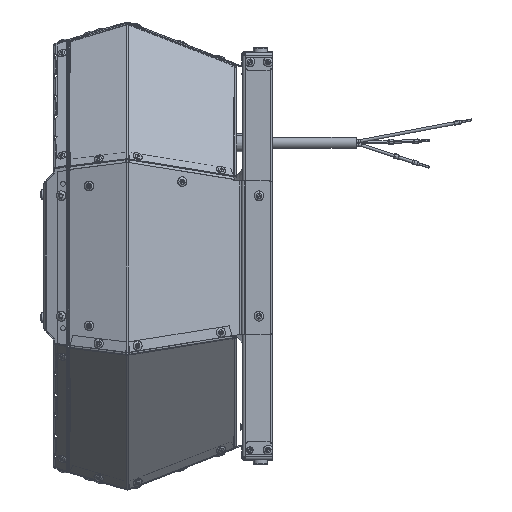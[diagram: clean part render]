
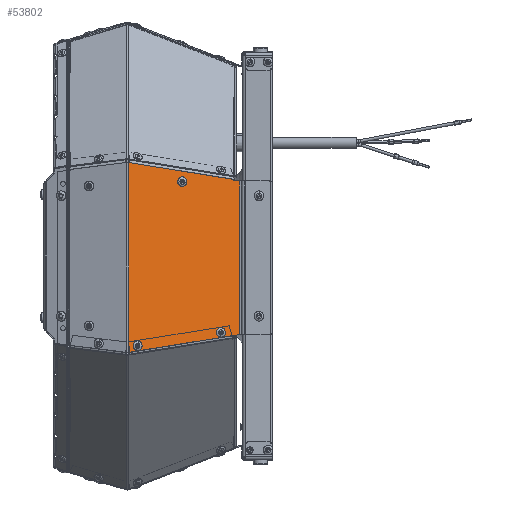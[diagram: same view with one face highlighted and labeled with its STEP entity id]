
A CAD part, left-side view. The second image highlights one B-rep face of the part: STEP entity #53802.
In plain terms, the highlighted planar face has unit normal (-0.932, -0.362, 0).
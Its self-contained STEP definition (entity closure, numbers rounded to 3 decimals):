
#4760 = FACE_BOUND ( 'NONE', #31088, .T. ) ;
#4762 = FACE_BOUND ( 'NONE', #31021, .T. ) ;
#4763 = FACE_OUTER_BOUND ( 'NONE', #31113, .T. ) ;
#4765 = FACE_BOUND ( 'NONE', #31054, .T. ) ;
#9129 = VERTEX_POINT ( 'NONE', #49673 ) ;
#12379 = EDGE_CURVE ( 'NONE', #64290, #96152, #92584, .T. ) ;
#12430 = EDGE_CURVE ( 'NONE', #96190, #63930, #92658, .T. ) ;
#12945 = EDGE_CURVE ( 'NONE', #63930, #96190, #22773, .T. ) ;
#12988 = EDGE_CURVE ( 'NONE', #63844, #63841, #22877, .T. ) ;
#12993 = EDGE_CURVE ( 'NONE', #9129, #64293, #22892, .T. ) ;
#13004 = EDGE_CURVE ( 'NONE', #64164, #13882, #22918, .T. ) ;
#13023 = EDGE_CURVE ( 'NONE', #9129, #95995, #22967, .T. ) ;
#13024 = EDGE_CURVE ( 'NONE', #63974, #62312, #22969, .T. ) ;
#13029 = EDGE_CURVE ( 'NONE', #63841, #64293, #22985, .T. ) ;
#13035 = EDGE_CURVE ( 'NONE', #96152, #64029, #23003, .T. ) ;
#13039 = EDGE_CURVE ( 'NONE', #95995, #64290, #23012, .T. ) ;
#13050 = EDGE_CURVE ( 'NONE', #63844, #64029, #23011, .T. ) ;
#13057 = EDGE_CURVE ( 'NONE', #13882, #64164, #23052, .T. ) ;
#13074 = EDGE_CURVE ( 'NONE', #62312, #63974, #23092, .T. ) ;
#13882 = VERTEX_POINT ( 'NONE', #80753 ) ;
#17981 = ORIENTED_EDGE ( 'NONE', *, *, #13074, .F. ) ;
#17982 = ORIENTED_EDGE ( 'NONE', *, *, #13024, .F. ) ;
#17983 = ORIENTED_EDGE ( 'NONE', *, *, #13004, .T. ) ;
#17984 = ORIENTED_EDGE ( 'NONE', *, *, #13057, .T. ) ;
#17985 = ORIENTED_EDGE ( 'NONE', *, *, #12430, .T. ) ;
#17986 = ORIENTED_EDGE ( 'NONE', *, *, #12945, .T. ) ;
#17987 = ORIENTED_EDGE ( 'NONE', *, *, #12379, .F. ) ;
#17988 = ORIENTED_EDGE ( 'NONE', *, *, #13039, .F. ) ;
#17989 = ORIENTED_EDGE ( 'NONE', *, *, #13023, .F. ) ;
#17990 = ORIENTED_EDGE ( 'NONE', *, *, #12993, .T. ) ;
#17991 = ORIENTED_EDGE ( 'NONE', *, *, #13029, .F. ) ;
#17992 = ORIENTED_EDGE ( 'NONE', *, *, #12988, .F. ) ;
#17993 = ORIENTED_EDGE ( 'NONE', *, *, #13050, .T. ) ;
#17994 = ORIENTED_EDGE ( 'NONE', *, *, #13035, .F. ) ;
#22773 = CIRCLE ( 'NONE', #74229, 2.1 ) ;
#22877 = LINE ( 'NONE', #86861, #22883 ) ;
#22883 = VECTOR ( 'NONE', #86866, 1000. ) ;
#22892 = LINE ( 'NONE', #86872, #22894 ) ;
#22894 = VECTOR ( 'NONE', #86875, 1000. ) ;
#22918 = CIRCLE ( 'NONE', #74255, 2.1 ) ;
#22967 = LINE ( 'NONE', #87166, #22970 ) ;
#22969 = CIRCLE ( 'NONE', #74262, 2.1 ) ;
#22970 = VECTOR ( 'NONE', #87169, 1000. ) ;
#22985 = LINE ( 'NONE', #87177, #22989 ) ;
#22989 = VECTOR ( 'NONE', #87174, 1000. ) ;
#23003 = LINE ( 'NONE', #87265, #23008 ) ;
#23008 = VECTOR ( 'NONE', #87270, 1000. ) ;
#23011 = LINE ( 'NONE', #87412, #23037 ) ;
#23012 = LINE ( 'NONE', #87298, #23018 ) ;
#23018 = VECTOR ( 'NONE', #87302, 1000. ) ;
#23037 = VECTOR ( 'NONE', #87418, 1000. ) ;
#23052 = CIRCLE ( 'NONE', #74273, 2.1 ) ;
#23092 = CIRCLE ( 'NONE', #74280, 2.1 ) ;
#31021 = EDGE_LOOP ( 'NONE', ( #17985, #17986 ) ) ;
#31054 = EDGE_LOOP ( 'NONE', ( #17983, #17984 ) ) ;
#31088 = EDGE_LOOP ( 'NONE', ( #17981, #17982 ) ) ;
#31113 = EDGE_LOOP ( 'NONE', ( #17987, #17988, #17989, #17990, #17991, #17992, #17993, #17994 ) ) ;
#41244 = CARTESIAN_POINT ( 'NONE',  ( -160.038, 9.286, 62.259 ) ) ;
#41401 = CARTESIAN_POINT ( 'NONE',  ( -158.176, 4.499, -65.164 ) ) ;
#41439 = CARTESIAN_POINT ( 'NONE',  ( -165.073, 22.233, -63.383 ) ) ;
#49673 = CARTESIAN_POINT ( 'NONE',  ( -160.038, 9.286, 63.536 ) ) ;
#50690 = CARTESIAN_POINT ( 'NONE',  ( -158.176, 4.499, 80. ) ) ;
#50691 = DIRECTION ( 'NONE',  ( 0., 0., -1. ) ) ;
#53802 = ADVANCED_FACE ( 'NONE', ( #4760, #4765, #4762, #4763 ), #60973, .F. ) ;
#53833 = AXIS2_PLACEMENT_3D ( 'NONE', #60972, #60964, #60974 ) ;
#56672 = DIRECTION ( 'NONE',  ( -0.362, 0.932, 0. ) ) ;
#56675 = DIRECTION ( 'NONE',  ( 0.932, 0.362, 0. ) ) ;
#56677 = CARTESIAN_POINT ( 'NONE',  ( -164.312, 20.276, -63.383 ) ) ;
#59629 = CARTESIAN_POINT ( 'NONE',  ( -175.969, 50.251, 61.664 ) ) ;
#60964 = DIRECTION ( 'NONE',  ( 0.932, 0.362, 0. ) ) ;
#60972 = CARTESIAN_POINT ( 'NONE',  ( -194.291, 97.367, 80. ) ) ;
#60973 = PLANE ( 'NONE',  #53833 ) ;
#60974 = DIRECTION ( 'NONE',  ( -0.362, 0.932, 0. ) ) ;
#62312 = VERTEX_POINT ( 'NONE', #59629 ) ;
#63841 = VERTEX_POINT ( 'NONE', #65169 ) ;
#63844 = VERTEX_POINT ( 'NONE', #65207 ) ;
#63930 = VERTEX_POINT ( 'NONE', #65644 ) ;
#63974 = VERTEX_POINT ( 'NONE', #65846 ) ;
#64029 = VERTEX_POINT ( 'NONE', #66104 ) ;
#64164 = VERTEX_POINT ( 'NONE', #96796 ) ;
#64290 = VERTEX_POINT ( 'NONE', #97086 ) ;
#64293 = VERTEX_POINT ( 'NONE', #97095 ) ;
#65169 = CARTESIAN_POINT ( 'NONE',  ( -193.966, 96.532, 77.58 ) ) ;
#65207 = CARTESIAN_POINT ( 'NONE',  ( -193.993, 96.601, 77.58 ) ) ;
#65644 = CARTESIAN_POINT ( 'NONE',  ( -163.551, 18.319, -63.383 ) ) ;
#65846 = CARTESIAN_POINT ( 'NONE',  ( -177.491, 54.166, 61.664 ) ) ;
#66104 = CARTESIAN_POINT ( 'NONE',  ( -193.993, 96.601, -80. ) ) ;
#74021 = AXIS2_PLACEMENT_3D ( 'NONE', #56677, #56675, #56672 ) ;
#74229 = AXIS2_PLACEMENT_3D ( 'NONE', #85705, #85706, #85707 ) ;
#74255 = AXIS2_PLACEMENT_3D ( 'NONE', #87011, #87013, #87015 ) ;
#74262 = AXIS2_PLACEMENT_3D ( 'NONE', #87183, #87186, #87189 ) ;
#74273 = AXIS2_PLACEMENT_3D ( 'NONE', #87484, #87486, #87488 ) ;
#74280 = AXIS2_PLACEMENT_3D ( 'NONE', #87603, #87605, #87607 ) ;
#80753 = CARTESIAN_POINT ( 'NONE',  ( -190.432, 87.445, -74.512 ) ) ;
#85705 = CARTESIAN_POINT ( 'NONE',  ( -164.312, 20.276, -63.383 ) ) ;
#85706 = DIRECTION ( 'NONE',  ( 0.932, 0.362, 0. ) ) ;
#85707 = DIRECTION ( 'NONE',  ( -0.362, 0.932, 0. ) ) ;
#86861 = CARTESIAN_POINT ( 'NONE',  ( -193.966, 96.532, 77.58 ) ) ;
#86866 = DIRECTION ( 'NONE',  ( 0.362, -0.932, 0. ) ) ;
#86872 = CARTESIAN_POINT ( 'NONE',  ( -158.304, 4.827, 62.817 ) ) ;
#86875 = DIRECTION ( 'NONE',  ( -0.358, 0.922, 0.148 ) ) ;
#87011 = CARTESIAN_POINT ( 'NONE',  ( -191.193, 89.402, -74.512 ) ) ;
#87013 = DIRECTION ( 'NONE',  ( 0.932, 0.362, 0. ) ) ;
#87015 = DIRECTION ( 'NONE',  ( -0.362, 0.932, 0. ) ) ;
#87166 = CARTESIAN_POINT ( 'NONE',  ( -160.038, 9.286, 62.259 ) ) ;
#87169 = DIRECTION ( 'NONE',  ( 0., 0., -1. ) ) ;
#87174 = DIRECTION ( 'NONE',  ( 0.095, -0.245, 0.965 ) ) ;
#87177 = CARTESIAN_POINT ( 'NONE',  ( -193.966, 96.532, 77.58 ) ) ;
#87183 = CARTESIAN_POINT ( 'NONE',  ( -176.73, 52.209, 61.664 ) ) ;
#87186 = DIRECTION ( 'NONE',  ( -0.932, -0.362, 0. ) ) ;
#87189 = DIRECTION ( 'NONE',  ( 0.362, -0.932, 0. ) ) ;
#87265 = CARTESIAN_POINT ( 'NONE',  ( -158.176, 4.499, -65.164 ) ) ;
#87270 = DIRECTION ( 'NONE',  ( -0.358, 0.922, -0.148 ) ) ;
#87298 = CARTESIAN_POINT ( 'NONE',  ( -153.514, -7.491, 62.259 ) ) ;
#87302 = DIRECTION ( 'NONE',  ( 0.362, -0.932, 0. ) ) ;
#87412 = CARTESIAN_POINT ( 'NONE',  ( -193.993, 96.601, 80. ) ) ;
#87418 = DIRECTION ( 'NONE',  ( 0., 0., -1. ) ) ;
#87484 = CARTESIAN_POINT ( 'NONE',  ( -191.193, 89.402, -74.512 ) ) ;
#87486 = DIRECTION ( 'NONE',  ( 0.932, 0.362, 0. ) ) ;
#87488 = DIRECTION ( 'NONE',  ( -0.362, 0.932, 0. ) ) ;
#87603 = CARTESIAN_POINT ( 'NONE',  ( -176.73, 52.209, 61.664 ) ) ;
#87605 = DIRECTION ( 'NONE',  ( -0.932, -0.362, 0. ) ) ;
#87607 = DIRECTION ( 'NONE',  ( 0.362, -0.932, 0. ) ) ;
#92580 = VECTOR ( 'NONE', #50691, 1000. ) ;
#92584 = LINE ( 'NONE', #50690, #92580 ) ;
#92658 = CIRCLE ( 'NONE', #74021, 2.1 ) ;
#95995 = VERTEX_POINT ( 'NONE', #41244 ) ;
#96152 = VERTEX_POINT ( 'NONE', #41401 ) ;
#96190 = VERTEX_POINT ( 'NONE', #41439 ) ;
#96796 = CARTESIAN_POINT ( 'NONE',  ( -191.955, 91.359, -74.512 ) ) ;
#97086 = CARTESIAN_POINT ( 'NONE',  ( -158.176, 4.499, 62.259 ) ) ;
#97095 = CARTESIAN_POINT ( 'NONE',  ( -193.965, 96.529, 77.589 ) ) ;
